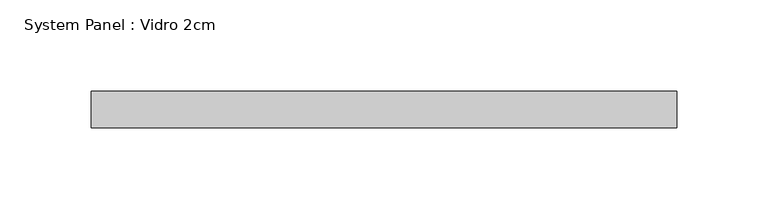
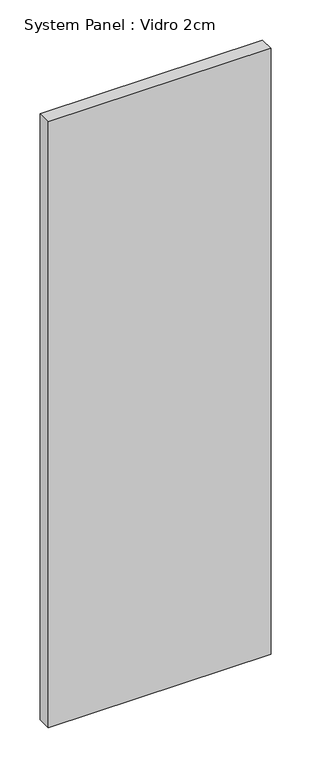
"""IFC4 building model written with IfcOpenShell, lengths in millimetres: plate geometry, System Panel : Vidro 2cm."""

from ifc_helpers import new_model, si_unit, origin, origin_with_axes, place, context, project, spatial, polyline, outline, extrude, source, transform, mapped, element, save


def system_panel_vidro_2cm_6ec49b1f(model_context):
    return source(origin(), model_context, "Body", "SweptSolid", [
        extrude(outline(polyline([(159.9999998, -20.0), (-159.9999998, -20.0), (-159.9999998, 0.0), (159.9999998, 0.0), (159.9999998, -20.0)])), origin_with_axes(), (0.0, 0.0, 1.0), 920.0),
    ])


if __name__ == "__main__":
    model = new_model("IFC4")
    model_context = context("Model", 3, world=origin())
    ifc_project = project(units=[si_unit("LENGTHUNIT", "METRE", prefix="MILLI")], contexts=[model_context])
    site = spatial("IfcSite", under=ifc_project)
    building = spatial("IfcBuilding", under=site)
    placement = place(None, origin())
    system_panel_vidro_2cm_shape = system_panel_vidro_2cm_6ec49b1f(model_context)
    element("IfcPlate", 1, ObjectType="System Panel : Vidro 2cm", at=placement, inside=building, context=model_context, shape_type="MappedRepresentation", body=[
        mapped(system_panel_vidro_2cm_shape, transform((0.0, 0.0, 0.0), x_axis=(1.0, 0.0, 0.0), y_axis=(0.0, 1.0, 0.0), z_axis=(0.0, 0.0, 1.0))),
    ])
    save(model, "model.ifc")
